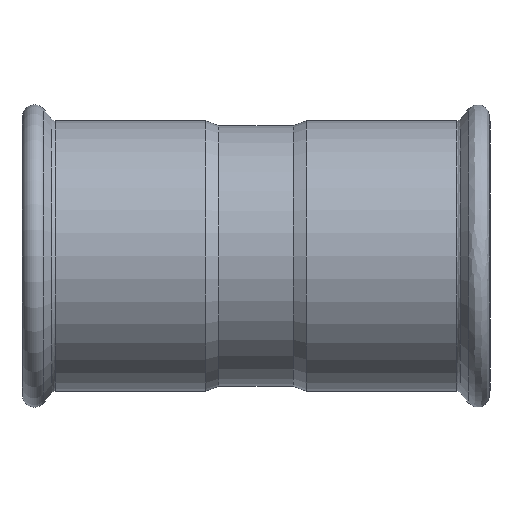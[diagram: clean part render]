
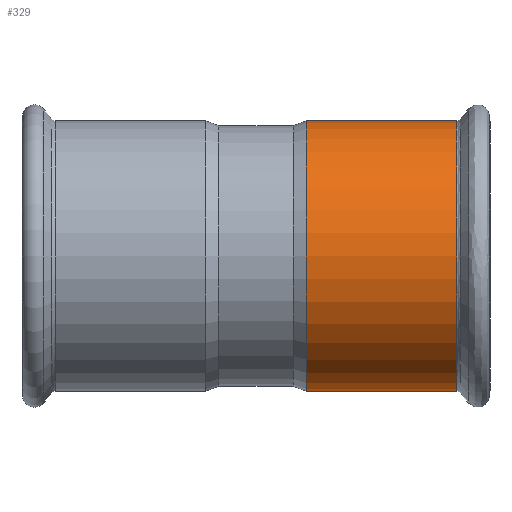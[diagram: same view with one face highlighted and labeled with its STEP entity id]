
A CAD part, front view. The second image highlights one B-rep face of the part: STEP entity #329.
In plain terms, the highlighted free-form (B-spline) face has degree [1, 2] with [2, 9] control points.
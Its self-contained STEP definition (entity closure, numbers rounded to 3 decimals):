
#274=CARTESIAN_POINT('',(129.439,87.25,0.0));
#275=VERTEX_POINT('',#274);
#276=CARTESIAN_POINT('',(129.439,0.0,0.0));
#277=DIRECTION('',(1.0,0.0,0.0));
#278=DIRECTION('',(0.0,1.0,0.0));
#279=AXIS2_PLACEMENT_3D('',#276,#277,#278);
#280=CIRCLE('',#279,87.25);
#281=EDGE_CURVE('',#275,#275,#280,.T.);
#289=CARTESIAN_POINT('',(129.439,-87.25,0.));
#290=CARTESIAN_POINT('',(32.542,-87.25,0.));
#291=CARTESIAN_POINT('',(129.439,-87.25,-87.25));
#292=CARTESIAN_POINT('',(32.542,-87.25,-87.25));
#293=CARTESIAN_POINT('',(129.439,0.,-87.25));
#294=CARTESIAN_POINT('',(32.542,0.,-87.25));
#295=CARTESIAN_POINT('',(129.439,87.25,-87.25));
#296=CARTESIAN_POINT('',(32.542,87.25,-87.25));
#297=CARTESIAN_POINT('',(129.439,87.25,0.));
#298=CARTESIAN_POINT('',(32.542,87.25,0.));
#299=CARTESIAN_POINT('',(129.439,87.25,87.25));
#300=CARTESIAN_POINT('',(32.542,87.25,87.25));
#301=CARTESIAN_POINT('',(129.439,0.,87.25));
#302=CARTESIAN_POINT('',(32.542,0.,87.25));
#303=CARTESIAN_POINT('',(129.439,-87.25,87.25));
#304=CARTESIAN_POINT('',(32.542,-87.25,87.25));
#305=CARTESIAN_POINT('',(129.439,-87.25,0.));
#306=CARTESIAN_POINT('',(32.542,-87.25,0.));
#314=(BOUNDED_SURFACE()B_SPLINE_SURFACE(1,2,((#289,#291,#293,#295,#297,#299,#301,#303,#305),(#290,#292,#294,#296,#298,#300,#302,#304,#306)),.UNSPECIFIED.,.F.,.T.,.U.)B_SPLINE_SURFACE_WITH_KNOTS((2,2),(3,2,2,2,3),(-0.555,0.555),(0.0,137.052,274.104,411.156,548.208),.UNSPECIFIED.)GEOMETRIC_REPRESENTATION_ITEM()RATIONAL_B_SPLINE_SURFACE(((1.0,0.707,1.0,0.707,1.0,0.707,1.0,0.707,1.0),(1.0,0.707,1.0,0.707,1.0,0.707,1.0,0.707,1.0)))REPRESENTATION_ITEM('')SURFACE());
#315=CARTESIAN_POINT('',(32.542,87.25,0.0));
#316=VERTEX_POINT('',#315);
#317=CARTESIAN_POINT('',(32.542,0.0,0.0));
#318=DIRECTION('',(1.0,0.0,0.0));
#319=DIRECTION('',(0.0,1.0,0.0));
#320=AXIS2_PLACEMENT_3D('',#317,#318,#319);
#321=CIRCLE('',#320,87.25);
#322=EDGE_CURVE('',#316,#316,#321,.T.);
#323=ORIENTED_EDGE('',*,*,#322,.T.);
#324=EDGE_LOOP('',(#323));
#325=FACE_OUTER_BOUND('',#324,.T.);
#326=ORIENTED_EDGE('',*,*,#281,.F.);
#327=EDGE_LOOP('',(#326));
#328=FACE_BOUND('',#327,.T.);
#329=ADVANCED_FACE('',(#325,#328),#314,.T.);
